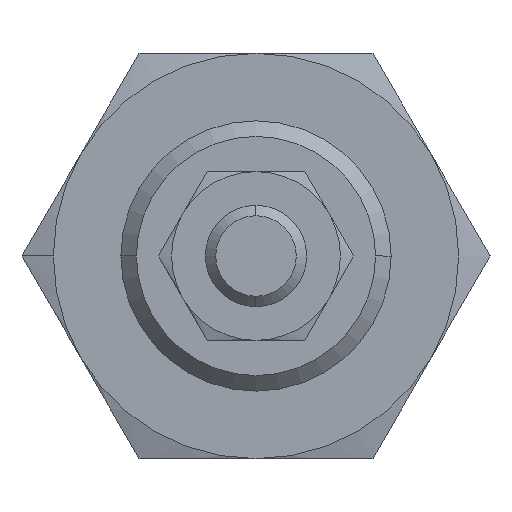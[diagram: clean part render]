
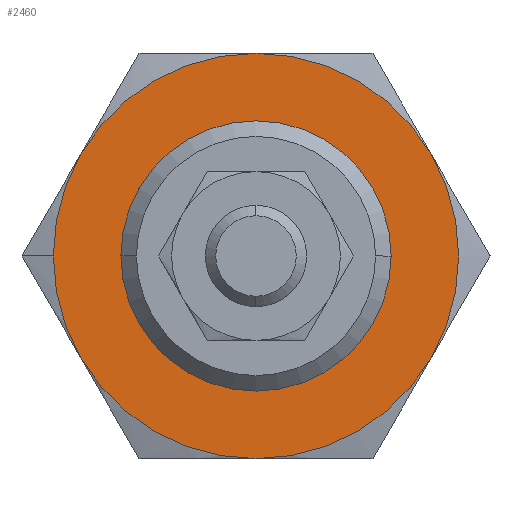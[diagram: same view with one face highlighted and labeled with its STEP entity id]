
A CAD part, left-side view. The second image highlights one B-rep face of the part: STEP entity #2460.
In plain terms, the highlighted planar face has unit normal (-1, 0, 0).
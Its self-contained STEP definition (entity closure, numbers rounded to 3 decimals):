
#16 = DIRECTION ( 'NONE',  ( 1., 0., 0. ) ) ;
#17 = CARTESIAN_POINT ( 'NONE',  ( -13.5, 0., 0. ) ) ;
#26 = ORIENTED_EDGE ( 'NONE', *, *, #1858, .T. ) ;
#175 = EDGE_LOOP ( 'NONE', ( #26, #2187 ) ) ;
#218 = DIRECTION ( 'NONE',  ( 0., 1., 0. ) ) ;
#282 = DIRECTION ( 'NONE',  ( 1., 0., 0. ) ) ;
#297 = DIRECTION ( 'NONE',  ( 0., 1., 0. ) ) ;
#299 = CIRCLE ( 'NONE', #2098, 12. ) ;
#336 = VERTEX_POINT ( 'NONE', #4248 ) ;
#410 = AXIS2_PLACEMENT_3D ( 'NONE', #1217, #282, #218 ) ;
#480 = DIRECTION ( 'NONE',  ( 1., 0., 0. ) ) ;
#489 = AXIS2_PLACEMENT_3D ( 'NONE', #1861, #3170, #1879 ) ;
#574 = CIRCLE ( 'NONE', #410, 12. ) ;
#631 = EDGE_CURVE ( 'NONE', #3082, #3312, #574, .T. ) ;
#672 = DIRECTION ( 'NONE',  ( 0., 1., 0. ) ) ;
#760 = DIRECTION ( 'NONE',  ( 0., 1., 0. ) ) ;
#800 = CIRCLE ( 'NONE', #3627, 12. ) ;
#820 = DIRECTION ( 'NONE',  ( 0., 1., 0. ) ) ;
#897 = CIRCLE ( 'NONE', #3173, 8. ) ;
#914 = CARTESIAN_POINT ( 'NONE',  ( -13.5, 12., 0. ) ) ;
#1052 = ORIENTED_EDGE ( 'NONE', *, *, #1204, .F. ) ;
#1204 = EDGE_CURVE ( 'NONE', #2490, #3082, #800, .T. ) ;
#1217 = CARTESIAN_POINT ( 'NONE',  ( -13.5, 0., 0. ) ) ;
#1224 = CARTESIAN_POINT ( 'NONE',  ( -13.5, -10.392, 6. ) ) ;
#1229 = CARTESIAN_POINT ( 'NONE',  ( -13.5, 10.392, 6. ) ) ;
#1237 = PLANE ( 'NONE',  #1612 ) ;
#1283 = ORIENTED_EDGE ( 'NONE', *, *, #1938, .F. ) ;
#1337 = AXIS2_PLACEMENT_3D ( 'NONE', #3722, #480, #760 ) ;
#1447 = CARTESIAN_POINT ( 'NONE',  ( -13.5, -10.392, -6. ) ) ;
#1449 = EDGE_LOOP ( 'NONE', ( #2772, #1509, #1283, #2901, #1052, #3579, #2799 ) ) ;
#1499 = DIRECTION ( 'NONE',  ( 0., 1., 0. ) ) ;
#1509 = ORIENTED_EDGE ( 'NONE', *, *, #2293, .F. ) ;
#1557 = DIRECTION ( 'NONE',  ( 1., 0., 0. ) ) ;
#1612 = AXIS2_PLACEMENT_3D ( 'NONE', #914, #2232, #3985 ) ;
#1737 = CIRCLE ( 'NONE', #3177, 12. ) ;
#1766 = VERTEX_POINT ( 'NONE', #2934 ) ;
#1781 = DIRECTION ( 'NONE',  ( 1., 0., 0. ) ) ;
#1858 = EDGE_CURVE ( 'NONE', #1766, #3168, #4171, .T. ) ;
#1861 = CARTESIAN_POINT ( 'NONE',  ( -13.5, 0., 0. ) ) ;
#1879 = DIRECTION ( 'NONE',  ( 0., 1., 0. ) ) ;
#1906 = CARTESIAN_POINT ( 'NONE',  ( -13.5, 10.392, -6. ) ) ;
#1908 = EDGE_CURVE ( 'NONE', #2670, #2490, #299, .T. ) ;
#1938 = EDGE_CURVE ( 'NONE', #3312, #336, #2851, .T. ) ;
#2098 = AXIS2_PLACEMENT_3D ( 'NONE', #2784, #1781, #3088 ) ;
#2102 = AXIS2_PLACEMENT_3D ( 'NONE', #4162, #3517, #2211 ) ;
#2187 = ORIENTED_EDGE ( 'NONE', *, *, #2923, .T. ) ;
#2211 = DIRECTION ( 'NONE',  ( 0., 1., 0. ) ) ;
#2232 = DIRECTION ( 'NONE',  ( -1., 0., 0. ) ) ;
#2293 = EDGE_CURVE ( 'NONE', #336, #4087, #3965, .T. ) ;
#2299 = CARTESIAN_POINT ( 'NONE',  ( -13.5, 12., 0. ) ) ;
#2382 = CARTESIAN_POINT ( 'NONE',  ( -13.5, 0., 12. ) ) ;
#2460 = ADVANCED_FACE ( 'NONE', ( #2878, #4205 ), #1237, .T. ) ;
#2490 = VERTEX_POINT ( 'NONE', #2382 ) ;
#2627 = CARTESIAN_POINT ( 'NONE',  ( -13.5, 0., 0. ) ) ;
#2670 = VERTEX_POINT ( 'NONE', #1229 ) ;
#2772 = ORIENTED_EDGE ( 'NONE', *, *, #3057, .F. ) ;
#2784 = CARTESIAN_POINT ( 'NONE',  ( -13.5, 0., 0. ) ) ;
#2799 = ORIENTED_EDGE ( 'NONE', *, *, #3179, .F. ) ;
#2851 = CIRCLE ( 'NONE', #4100, 12. ) ;
#2878 = FACE_OUTER_BOUND ( 'NONE', #1449, .T. ) ;
#2901 = ORIENTED_EDGE ( 'NONE', *, *, #631, .F. ) ;
#2923 = EDGE_CURVE ( 'NONE', #3168, #1766, #897, .T. ) ;
#2934 = CARTESIAN_POINT ( 'NONE',  ( -13.5, -8., 0. ) ) ;
#3057 = EDGE_CURVE ( 'NONE', #4087, #3502, #4213, .T. ) ;
#3082 = VERTEX_POINT ( 'NONE', #1224 ) ;
#3088 = DIRECTION ( 'NONE',  ( 0., 1., 0. ) ) ;
#3168 = VERTEX_POINT ( 'NONE', #4241 ) ;
#3170 = DIRECTION ( 'NONE',  ( 1., 0., 0. ) ) ;
#3173 = AXIS2_PLACEMENT_3D ( 'NONE', #4059, #3739, #820 ) ;
#3177 = AXIS2_PLACEMENT_3D ( 'NONE', #2627, #16, #297 ) ;
#3179 = EDGE_CURVE ( 'NONE', #3502, #2670, #1737, .T. ) ;
#3312 = VERTEX_POINT ( 'NONE', #1447 ) ;
#3502 = VERTEX_POINT ( 'NONE', #2299 ) ;
#3517 = DIRECTION ( 'NONE',  ( 1., 0., 0. ) ) ;
#3579 = ORIENTED_EDGE ( 'NONE', *, *, #1908, .F. ) ;
#3627 = AXIS2_PLACEMENT_3D ( 'NONE', #17, #3678, #672 ) ;
#3678 = DIRECTION ( 'NONE',  ( 1., 0., 0. ) ) ;
#3722 = CARTESIAN_POINT ( 'NONE',  ( -13.5, 0., 0. ) ) ;
#3739 = DIRECTION ( 'NONE',  ( 1., 0., 0. ) ) ;
#3965 = CIRCLE ( 'NONE', #2102, 12. ) ;
#3985 = DIRECTION ( 'NONE',  ( 0., 1., 0. ) ) ;
#4059 = CARTESIAN_POINT ( 'NONE',  ( -13.5, 0., 0. ) ) ;
#4087 = VERTEX_POINT ( 'NONE', #1906 ) ;
#4100 = AXIS2_PLACEMENT_3D ( 'NONE', #4133, #1557, #1499 ) ;
#4133 = CARTESIAN_POINT ( 'NONE',  ( -13.5, 0., 0. ) ) ;
#4162 = CARTESIAN_POINT ( 'NONE',  ( -13.5, 0., 0. ) ) ;
#4171 = CIRCLE ( 'NONE', #1337, 8. ) ;
#4205 = FACE_BOUND ( 'NONE', #175, .T. ) ;
#4213 = CIRCLE ( 'NONE', #489, 12. ) ;
#4241 = CARTESIAN_POINT ( 'NONE',  ( -13.5, 8., 0. ) ) ;
#4248 = CARTESIAN_POINT ( 'NONE',  ( -13.5, 0., -12. ) ) ;
